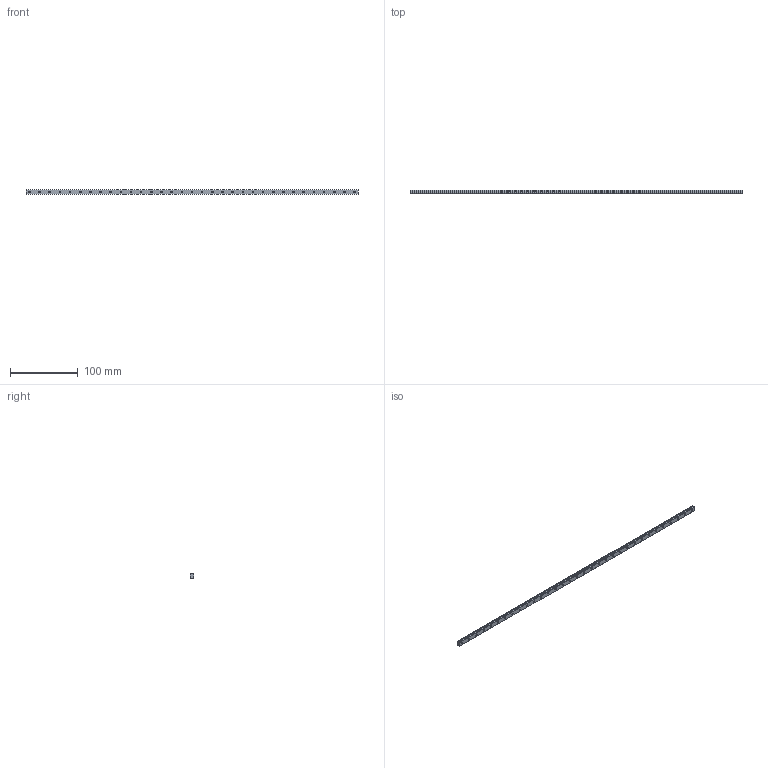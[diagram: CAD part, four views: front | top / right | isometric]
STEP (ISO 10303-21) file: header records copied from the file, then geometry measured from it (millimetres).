
FILE_DESCRIPTION(/* description */ ('STEP AP214'),/* implementation_level */ '2;1');
FILE_NAME(/* name */ 'SRS7-490LM(GK) RAIL(5)',/* time_stamp */ '2023-06-01T09:55:39+02:00',/* author */ ('License CC BY-ND 4.0'),/* organization */ ('CADENAS'),/* preprocessor_version */ 'ST-DEVELOPER v19.3',/* originating_system */ 'PARTsolutions',/* authorisation */ ' ');
FILE_SCHEMA (('AUTOMOTIVE_DESIGN {1 0 10303 214 3 1 1}'));
Length unit declared in the file: millimetre
Products named in the file (1): SRS7-490LM(GK) RAIL(5)
Bounding box: 490 x 4.7 x 7 mm (x, y, z)
Volume: 14235.8 mm3; surface area: 12742.4 mm2
Topology: 1 solids, 1 shells, 117 faces, 246 edges, 164 vertices
Faces by surface type: cylinder 72, plane 45
Full cylindrical faces by diameter (mm): 2.4 x33, 4.2 x33
Entity records: 3036 total; most frequent: DIRECTION 560, CARTESIAN_POINT 462, ORIENTED_EDGE 360, EDGE_LOOP 282, FACE_BOUND 282, AXIS2_PLACEMENT_3D 262, EDGE_CURVE 180, VERTEX_POINT 164
